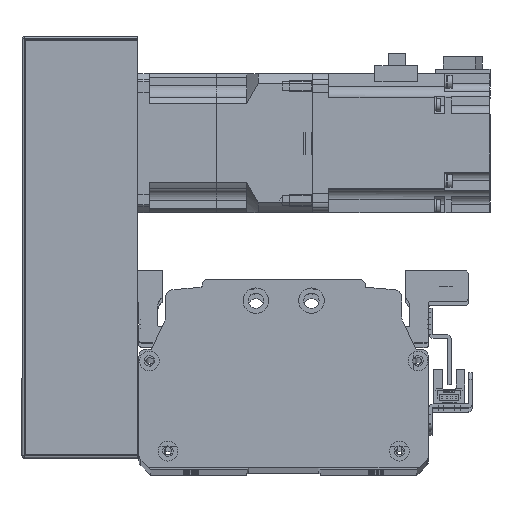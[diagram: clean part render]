
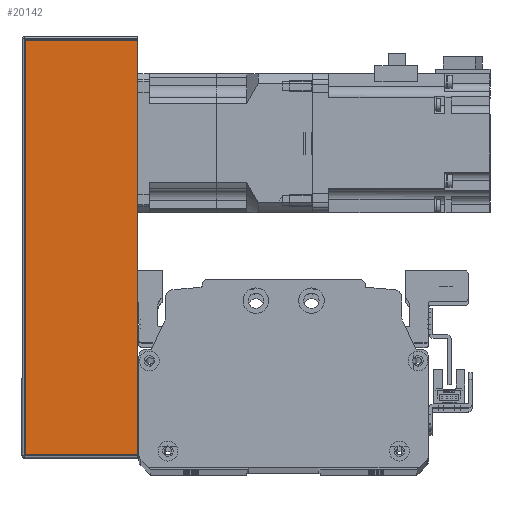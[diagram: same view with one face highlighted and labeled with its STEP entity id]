
A CAD part, top view. The second image highlights one B-rep face of the part: STEP entity #20142.
In plain terms, the highlighted planar face has unit normal (0, 0, 1) as drawn and (0, -1, 0) by its records, which use the part's own axes.
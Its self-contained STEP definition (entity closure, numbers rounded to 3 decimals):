
#604=PLANE('',#22154);
#1823=LINE('',#33280,#3447);
#1832=LINE('',#33319,#3456);
#1835=LINE('',#33329,#3459);
#1836=LINE('',#33331,#3460);
#3447=VECTOR('',#26926,10.);
#3456=VECTOR('',#26975,10.);
#3459=VECTOR('',#26992,10.);
#3460=VECTOR('',#26995,10.);
#5886=FACE_OUTER_BOUND('',#7386,.T.);
#7386=EDGE_LOOP('',(#17339,#17340,#17341,#17342));
#10313=VERTEX_POINT('',#33277);
#10314=VERTEX_POINT('',#33279);
#10323=VERTEX_POINT('',#33316);
#10324=VERTEX_POINT('',#33318);
#12785=EDGE_CURVE('',#10313,#10314,#1823,.T.);
#12805=EDGE_CURVE('',#10323,#10324,#1832,.T.);
#12811=EDGE_CURVE('',#10324,#10313,#1835,.T.);
#12812=EDGE_CURVE('',#10314,#10323,#1836,.T.);
#17339=ORIENTED_EDGE('',*,*,#12805,.F.);
#17340=ORIENTED_EDGE('',*,*,#12812,.F.);
#17341=ORIENTED_EDGE('',*,*,#12785,.F.);
#17342=ORIENTED_EDGE('',*,*,#12811,.F.);
#20142=ADVANCED_FACE('',(#5886),#604,.T.);
#22154=AXIS2_PLACEMENT_3D('',#33330,#26993,#26994);
#26926=DIRECTION('',(1.,0.,0.));
#26975=DIRECTION('',(-1.,0.,0.));
#26992=DIRECTION('',(0.,0.,1.));
#26993=DIRECTION('center_axis',(0.,-1.,0.));
#26994=DIRECTION('ref_axis',(1.,0.,0.));
#26995=DIRECTION('',(0.,0.,-1.));
#33277=CARTESIAN_POINT('',(-90.,-38.,25.));
#33279=CARTESIAN_POINT('',(90.,-38.,25.));
#33280=CARTESIAN_POINT('',(91.,-38.,25.));
#33316=CARTESIAN_POINT('',(90.,-38.,-24.));
#33318=CARTESIAN_POINT('',(-90.,-38.,-24.));
#33319=CARTESIAN_POINT('',(-45.5,-38.,-24.));
#33329=CARTESIAN_POINT('',(-90.,-38.,0.));
#33330=CARTESIAN_POINT('Origin',(-91.,-38.,0.));
#33331=CARTESIAN_POINT('',(90.,-38.,0.));
